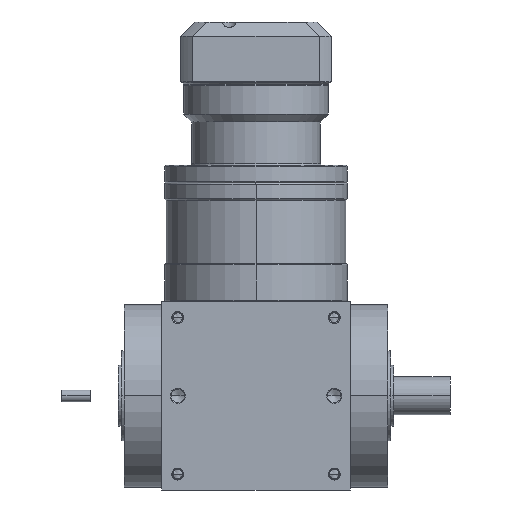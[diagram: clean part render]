
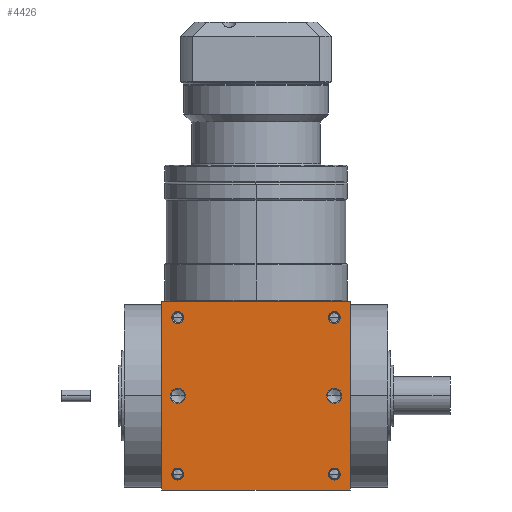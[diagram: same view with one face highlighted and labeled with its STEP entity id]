
A CAD part, front view. The second image highlights one B-rep face of the part: STEP entity #4426.
In plain terms, the highlighted planar face has unit normal (0, -1, 0).
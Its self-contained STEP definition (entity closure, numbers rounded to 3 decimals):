
#5=DIRECTION('',(1.,0.,0.));
#6=VECTOR('',#5,65.);
#7=CARTESIAN_POINT('',(-32.5,-32.5,-32.5));
#8=LINE('',#7,#6);
#155=DIRECTION('',(0.,0.,1.));
#156=VECTOR('',#155,65.);
#157=CARTESIAN_POINT('',(32.5,-32.5,-32.5));
#158=LINE('',#157,#156);
#209=DIRECTION('',(0.,0.,1.));
#210=VECTOR('',#209,65.);
#211=CARTESIAN_POINT('',(-32.5,-32.5,-32.5));
#212=LINE('',#211,#210);
#213=CARTESIAN_POINT('',(27.,-32.5,27.));
#214=DIRECTION('',(0.,1.,0.));
#215=DIRECTION('',(-1.,0.,0.));
#216=AXIS2_PLACEMENT_3D('',#213,#214,#215);
#218=CARTESIAN_POINT('',(27.,-32.5,27.));
#219=DIRECTION('',(0.,1.,0.));
#220=DIRECTION('',(1.,0.,0.));
#221=AXIS2_PLACEMENT_3D('',#218,#219,#220);
#223=CARTESIAN_POINT('',(-27.,-32.5,27.));
#224=DIRECTION('',(0.,1.,0.));
#225=DIRECTION('',(-1.,0.,0.));
#226=AXIS2_PLACEMENT_3D('',#223,#224,#225);
#228=CARTESIAN_POINT('',(-27.,-32.5,27.));
#229=DIRECTION('',(0.,1.,0.));
#230=DIRECTION('',(1.,0.,0.));
#231=AXIS2_PLACEMENT_3D('',#228,#229,#230);
#233=CARTESIAN_POINT('',(27.,-32.5,-27.));
#234=DIRECTION('',(0.,1.,0.));
#235=DIRECTION('',(-1.,0.,0.));
#236=AXIS2_PLACEMENT_3D('',#233,#234,#235);
#238=CARTESIAN_POINT('',(27.,-32.5,-27.));
#239=DIRECTION('',(0.,1.,0.));
#240=DIRECTION('',(1.,0.,0.));
#241=AXIS2_PLACEMENT_3D('',#238,#239,#240);
#243=CARTESIAN_POINT('',(-27.,-32.5,-27.));
#244=DIRECTION('',(0.,1.,0.));
#245=DIRECTION('',(-1.,0.,0.));
#246=AXIS2_PLACEMENT_3D('',#243,#244,#245);
#248=CARTESIAN_POINT('',(-27.,-32.5,-27.));
#249=DIRECTION('',(0.,1.,0.));
#250=DIRECTION('',(1.,0.,0.));
#251=AXIS2_PLACEMENT_3D('',#248,#249,#250);
#253=CARTESIAN_POINT('',(-27.,-32.5,0.));
#254=DIRECTION('',(0.,1.,0.));
#255=DIRECTION('',(1.,0.,0.));
#256=AXIS2_PLACEMENT_3D('',#253,#254,#255);
#258=CARTESIAN_POINT('',(-27.,-32.5,0.));
#259=DIRECTION('',(0.,1.,0.));
#260=DIRECTION('',(-1.,0.,0.));
#261=AXIS2_PLACEMENT_3D('',#258,#259,#260);
#263=CARTESIAN_POINT('',(27.,-32.5,0.));
#264=DIRECTION('',(0.,1.,0.));
#265=DIRECTION('',(1.,0.,0.));
#266=AXIS2_PLACEMENT_3D('',#263,#264,#265);
#268=CARTESIAN_POINT('',(27.,-32.5,0.));
#269=DIRECTION('',(0.,1.,0.));
#270=DIRECTION('',(-1.,0.,0.));
#271=AXIS2_PLACEMENT_3D('',#268,#269,#270);
#285=DIRECTION('',(1.,0.,0.));
#286=VECTOR('',#285,65.);
#287=CARTESIAN_POINT('',(-32.5,-32.5,32.5));
#288=LINE('',#287,#286);
#3524=CARTESIAN_POINT('',(-32.5,-32.5,-32.5));
#3526=VERTEX_POINT('',#3524);
#3527=CARTESIAN_POINT('',(32.5,-32.5,-32.5));
#3528=VERTEX_POINT('',#3527);
#3532=CARTESIAN_POINT('',(-32.5,-32.5,32.5));
#3534=VERTEX_POINT('',#3532);
#3535=CARTESIAN_POINT('',(32.5,-32.5,32.5));
#3536=VERTEX_POINT('',#3535);
#3707=CARTESIAN_POINT('',(24.95,-32.5,27.));
#3708=CARTESIAN_POINT('',(29.05,-32.5,27.));
#3709=VERTEX_POINT('',#3707);
#3710=VERTEX_POINT('',#3708);
#3715=CARTESIAN_POINT('',(-29.05,-32.5,27.));
#3716=CARTESIAN_POINT('',(-24.95,-32.5,27.));
#3717=VERTEX_POINT('',#3715);
#3718=VERTEX_POINT('',#3716);
#3723=CARTESIAN_POINT('',(24.95,-32.5,-27.));
#3724=CARTESIAN_POINT('',(29.05,-32.5,-27.));
#3725=VERTEX_POINT('',#3723);
#3726=VERTEX_POINT('',#3724);
#3731=CARTESIAN_POINT('',(-29.05,-32.5,-27.));
#3732=CARTESIAN_POINT('',(-24.95,-32.5,-27.));
#3733=VERTEX_POINT('',#3731);
#3734=VERTEX_POINT('',#3732);
#4073=CARTESIAN_POINT('',(-24.4,-32.5,0.));
#4074=CARTESIAN_POINT('',(-29.6,-32.5,0.));
#4075=VERTEX_POINT('',#4073);
#4076=VERTEX_POINT('',#4074);
#4081=CARTESIAN_POINT('',(29.6,-32.5,0.));
#4082=CARTESIAN_POINT('',(24.4,-32.5,0.));
#4083=VERTEX_POINT('',#4081);
#4084=VERTEX_POINT('',#4082);
#4378=CARTESIAN_POINT('',(-32.5,-32.5,-32.5));
#4379=DIRECTION('',(0.,-1.,0.));
#4380=DIRECTION('',(1.,0.,0.));
#4381=AXIS2_PLACEMENT_3D('',#4378,#4379,#4380);
#4382=PLANE('',#4381);
#4383=ORIENTED_EDGE('',*,*,#4218,.F.);
#4384=ORIENTED_EDGE('',*,*,#4261,.T.);
#4386=ORIENTED_EDGE('',*,*,#4385,.T.);
#4387=ORIENTED_EDGE('',*,*,#4340,.F.);
#4388=EDGE_LOOP('',(#4383,#4384,#4386,#4387));
#4389=FACE_OUTER_BOUND('',#4388,.F.);
#4391=ORIENTED_EDGE('',*,*,#4390,.F.);
#4393=ORIENTED_EDGE('',*,*,#4392,.F.);
#4394=EDGE_LOOP('',(#4391,#4393));
#4395=FACE_BOUND('',#4394,.F.);
#4397=ORIENTED_EDGE('',*,*,#4396,.F.);
#4399=ORIENTED_EDGE('',*,*,#4398,.F.);
#4400=EDGE_LOOP('',(#4397,#4399));
#4401=FACE_BOUND('',#4400,.F.);
#4403=ORIENTED_EDGE('',*,*,#4402,.F.);
#4405=ORIENTED_EDGE('',*,*,#4404,.F.);
#4406=EDGE_LOOP('',(#4403,#4405));
#4407=FACE_BOUND('',#4406,.F.);
#4409=ORIENTED_EDGE('',*,*,#4408,.F.);
#4411=ORIENTED_EDGE('',*,*,#4410,.F.);
#4412=EDGE_LOOP('',(#4409,#4411));
#4413=FACE_BOUND('',#4412,.F.);
#4415=ORIENTED_EDGE('',*,*,#4414,.F.);
#4417=ORIENTED_EDGE('',*,*,#4416,.F.);
#4418=EDGE_LOOP('',(#4415,#4417));
#4419=FACE_BOUND('',#4418,.F.);
#4421=ORIENTED_EDGE('',*,*,#4420,.F.);
#4423=ORIENTED_EDGE('',*,*,#4422,.F.);
#4424=EDGE_LOOP('',(#4421,#4423));
#4425=FACE_BOUND('',#4424,.F.);
#4426=ADVANCED_FACE('',(#4389,#4395,#4401,#4407,#4413,#4419,#4425),#4382,.T.);
#217=CIRCLE('',#216,2.05);
#222=CIRCLE('',#221,2.05);
#227=CIRCLE('',#226,2.05);
#232=CIRCLE('',#231,2.05);
#237=CIRCLE('',#236,2.05);
#242=CIRCLE('',#241,2.05);
#247=CIRCLE('',#246,2.05);
#252=CIRCLE('',#251,2.05);
#257=CIRCLE('',#256,2.6);
#262=CIRCLE('',#261,2.6);
#267=CIRCLE('',#266,2.6);
#272=CIRCLE('',#271,2.6);
#4218=EDGE_CURVE('',#3526,#3528,#8,.T.);
#4261=EDGE_CURVE('',#3526,#3534,#212,.T.);
#4340=EDGE_CURVE('',#3528,#3536,#158,.T.);
#4385=EDGE_CURVE('',#3534,#3536,#288,.T.);
#4390=EDGE_CURVE('',#3709,#3710,#217,.T.);
#4392=EDGE_CURVE('',#3710,#3709,#222,.T.);
#4396=EDGE_CURVE('',#3717,#3718,#227,.T.);
#4398=EDGE_CURVE('',#3718,#3717,#232,.T.);
#4402=EDGE_CURVE('',#3725,#3726,#237,.T.);
#4404=EDGE_CURVE('',#3726,#3725,#242,.T.);
#4408=EDGE_CURVE('',#3733,#3734,#247,.T.);
#4410=EDGE_CURVE('',#3734,#3733,#252,.T.);
#4414=EDGE_CURVE('',#4075,#4076,#257,.T.);
#4416=EDGE_CURVE('',#4076,#4075,#262,.T.);
#4420=EDGE_CURVE('',#4083,#4084,#267,.T.);
#4422=EDGE_CURVE('',#4084,#4083,#272,.T.);
